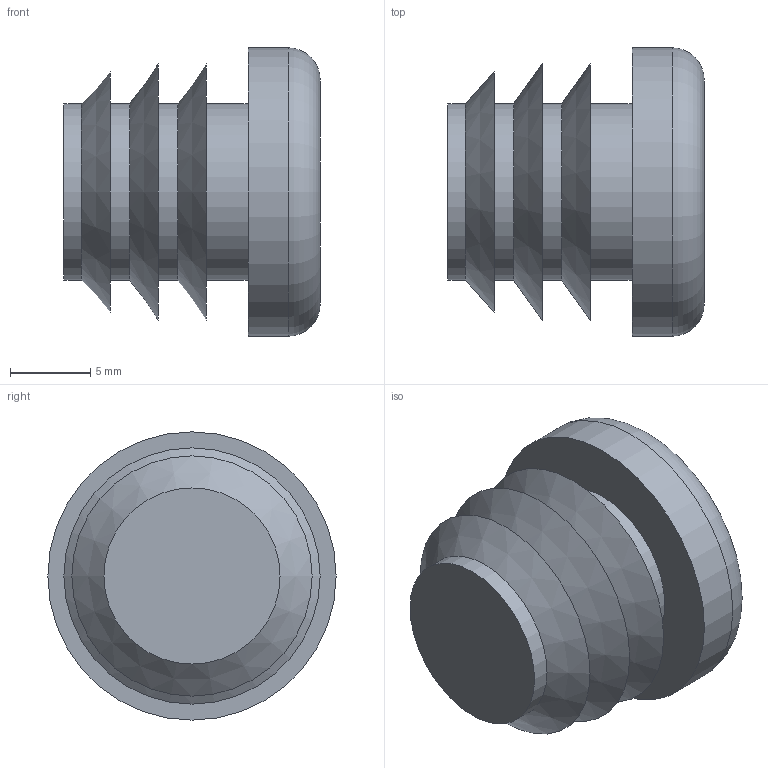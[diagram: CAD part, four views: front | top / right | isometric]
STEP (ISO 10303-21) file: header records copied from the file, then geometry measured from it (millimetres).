
FILE_DESCRIPTION(/* description */ ('END CAP FOR TUBE 500-6000'),/* implementation_level */ '2;1');
FILE_NAME(/* name */ '500-6200.stp',/* time_stamp */ '2022-09-16T11:24:51+02:00',/* author */ ('PL'),/* organization */ (''),/* preprocessor_version */ 'ST-DEVELOPER v19.2',/* originating_system */ 'Autodesk Inventor 2023',/* authorisation */ '');
FILE_SCHEMA (('AUTOMOTIVE_DESIGN { 1 0 10303 214 3 1 1 }'));
Length unit declared in the file: millimetre
Products named in the file (1): 500-6200
Bounding box: 16 x 18 x 18 mm (x, y, z)
Volume: 2440.7 mm3; surface area: 1588.8 mm2
Topology: 1 solids, 1 shells, 15 faces, 24 edges, 15 vertices
Faces by surface type: plane 6, cylinder 5, cone 3, torus 1
Full cylindrical faces by diameter (mm): 11 x4, 18 x1
Entity records: 393 total; most frequent: DIRECTION 72, CARTESIAN_POINT 55, ORIENTED_EDGE 48, AXIS2_PLACEMENT_3D 32, EDGE_CURVE 24, EDGE_LOOP 19, CIRCLE 16, FACE_OUTER_BOUND 15
